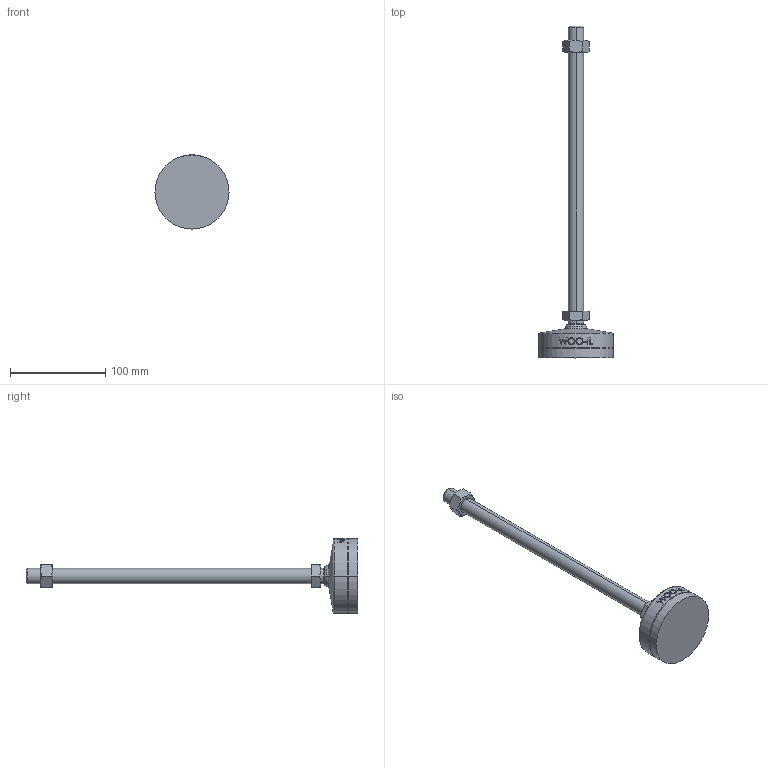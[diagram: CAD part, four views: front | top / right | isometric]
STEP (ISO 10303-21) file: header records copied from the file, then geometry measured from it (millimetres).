
FILE_DESCRIPTION (( 'STEP AP214' ), '1' );
FILE_NAME ('MFNR78-M16-300.step', '2021-02-22T09:08:10', ( '' ), ( '' ), 'SwSTEP 2.0', 'SolidWorks 2019', '' );
FILE_SCHEMA (( 'AUTOMOTIVE_DESIGN' ));
Length unit declared in the file: millimetre
Products named in the file (2): MFNR78-M16-300
Bounding box: 78 x 349 x 78 mm (x, y, z)
Volume: 205693.6 mm3; surface area: 35322.5 mm2
Topology: 2 solids, 2 shells, 105 faces, 245 edges, 156 vertices
Faces by surface type: plane 47, cone 18, cylinder 18, bspline 16, torus 4, sphere 2
Entity records: 4517 total; most frequent: CARTESIAN_POINT 2180, ORIENTED_EDGE 490, DIRECTION 437, EDGE_CURVE 245, AXIS2_PLACEMENT_3D 167, VERTEX_POINT 156, EDGE_LOOP 119, ADVANCED_FACE 105
